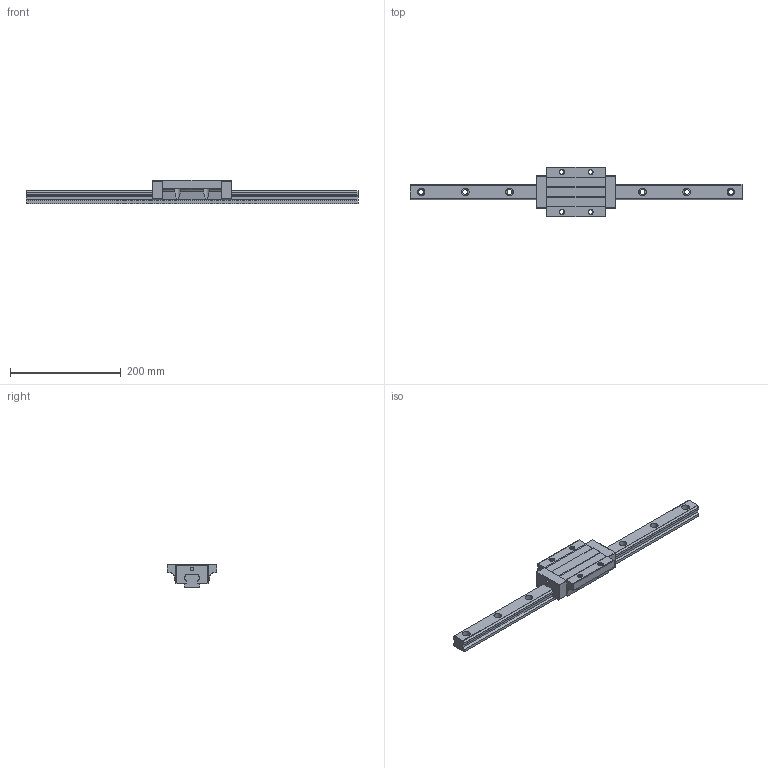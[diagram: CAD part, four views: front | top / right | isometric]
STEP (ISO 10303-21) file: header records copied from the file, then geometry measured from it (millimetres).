
FILE_DESCRIPTION (( 'STEP AP203' ), '1' );
FILE_NAME ('TRH30FE-WW-§ï.STEP', '2023-08-30T01:58:48', ( '' ), ( '' ), 'SwSTEP 2.0', 'SolidWorks 2022', '' );
FILE_SCHEMA (( 'CONFIG_CONTROL_DESIGN' ));
Length unit declared in the file: millimetre
Products named in the file (1): TRH30FE-WW-改
Bounding box: 600 x 90 x 42 mm (x, y, z)
Volume: 599140.7 mm3; surface area: 110481.2 mm2
Topology: 1 solids, 1 shells, 368 faces, 1066 edges, 704 vertices
Faces by surface type: cylinder 272, plane 84, bspline 8, sphere 4
Entity records: 25165 total; most frequent: CARTESIAN_POINT 15935, ORIENTED_EDGE 2124, DIRECTION 1614, EDGE_CURVE 1062, VERTEX_POINT 704, AXIS2_PLACEMENT_3D 565, VECTOR 484, LINE 484
